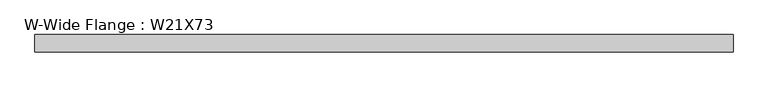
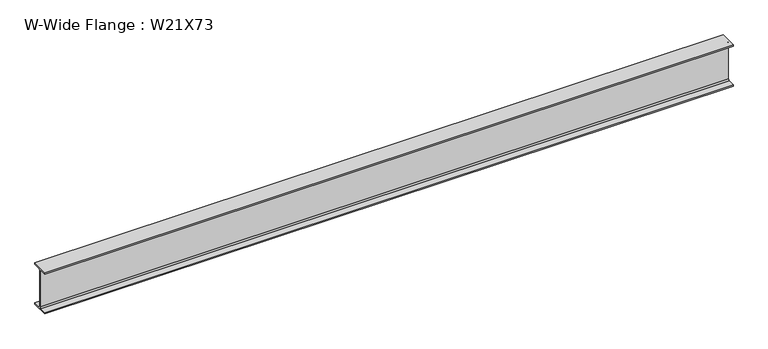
"""IFC4 building model written with IfcOpenShell, lengths in millimetres: beam geometry, W-Wide Flange : W21X73."""

from ifc_helpers import new_model, si_unit, point, frame, frame_2d, origin, place, context, project, spatial, polyline, circle_curve, trimmed, segment, composite_curve, outline, extrude, source, transform, mapped, element, save


def w_wide_flange_w21x73_6fdf119d(model_context):
    return source(origin(), model_context, "Body", "SweptSolid", [
        extrude(outline(composite_curve([segment(polyline([(105.41, -250.444), (105.41, -269.24), (-105.41, -269.24), (-105.41, -250.444), (-23.495, -250.444)]), True, "CONTINUOUS"), segment(trimmed(circle_curve(frame_2d((-23.495, -232.7275)), 17.7165), [point((-23.495, -250.444))], [point((-5.7785, -232.7275))], True, "CARTESIAN"), True, "CONTINUOUS"), segment(polyline([(-5.7785, -232.7275), (-5.7785, 232.7275)]), True, "CONTINUOUS"), segment(trimmed(circle_curve(frame_2d((-23.495, 232.7275)), 17.7165), [point((-5.7785, 232.7275))], [point((-23.495, 250.444))], True, "CARTESIAN"), True, "CONTINUOUS"), segment(polyline([(-23.495, 250.444), (-105.41, 250.444), (-105.41, 269.24), (105.41, 269.24), (105.41, 250.444), (23.495, 250.444)]), True, "CONTINUOUS"), segment(trimmed(circle_curve(frame_2d((23.495, 232.7275)), 17.7165), [point((23.495, 250.444))], [point((5.7785, 232.7275))], True, "CARTESIAN"), True, "CONTINUOUS"), segment(polyline([(5.7785, 232.7275), (5.7785, -232.7275)]), True, "CONTINUOUS"), segment(trimmed(circle_curve(frame_2d((23.495, -232.7275)), 17.7165), [point((5.7785, -232.7275))], [point((23.495, -250.444))], True, "CARTESIAN"), True, "CONTINUOUS"), segment(polyline([(23.495, -250.444), (105.41, -250.444)]), True, "CONTINUOUS")], self_intersect=False)), frame((-4243.07, 0.0, 0.0), z_axis=(1.0, 0.0, 0.0), x_axis=(0.0, 1.0, 0.0)), (0.0, 0.0, 1.0), 8483.6),
    ])


if __name__ == "__main__":
    model = new_model("IFC4")
    model_context = context("Model", 3, world=origin())
    ifc_project = project(units=[si_unit("LENGTHUNIT", "METRE", prefix="MILLI")], contexts=[model_context])
    site = spatial("IfcSite", under=ifc_project)
    building = spatial("IfcBuilding", under=site)
    placement = place(None, origin())
    w_wide_flange_w21x73_shape = w_wide_flange_w21x73_6fdf119d(model_context)
    element("IfcBeam", 1, ObjectType="W-Wide Flange : W21X73", at=placement, inside=building, context=model_context, shape_type="MappedRepresentation", body=[
        mapped(w_wide_flange_w21x73_shape, transform((0.0, 0.0, 0.0), x_axis=(1.0, 0.0, 0.0), y_axis=(0.0, 1.0, 0.0), z_axis=(0.0, 0.0, 1.0))),
    ])
    save(model, "model.ifc")
